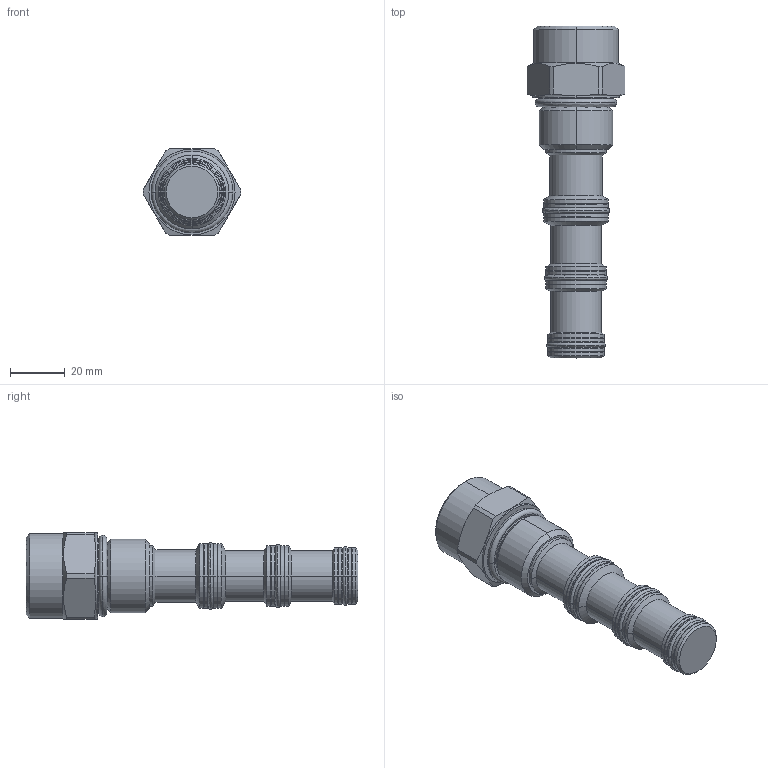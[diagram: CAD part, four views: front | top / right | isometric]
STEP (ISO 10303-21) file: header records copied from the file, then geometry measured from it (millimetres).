
FILE_DESCRIPTION((''),'2;1');
FILE_NAME('5429400_SW0001','2009-01-30T',('jcs'),(''),'PRO/ENGINEER BY PARAMETRIC TECHNOLOGY CORPORATION, 2008010','PRO/ENGINEER BY PARAMETRIC TECHNOLOGY CORPORATION, 2008010','');
FILE_SCHEMA(('CONFIG_CONTROL_DESIGN'));
Length unit declared in the file: inch
Products named in the file (1): 5429400_SW0001
Bounding box: 35.81 x 121.54 x 31.75 mm (x, y, z)
Volume: 55984.6 mm3; surface area: 14405.6 mm2
Topology: 5 solids, 5 shells, 162 faces, 336 edges, 190 vertices
Faces by surface type: cylinder 56, cone 36, revolution 32, plane 22, torus 16
Entity records: 4878 total; most frequent: CARTESIAN_POINT 1360, DIRECTION 770, ORIENTED_EDGE 672, EDGE_CURVE 336, AXIS2_PLACEMENT_3D 320, VERTEX_POINT 190, CIRCLE 190, EDGE_LOOP 176
